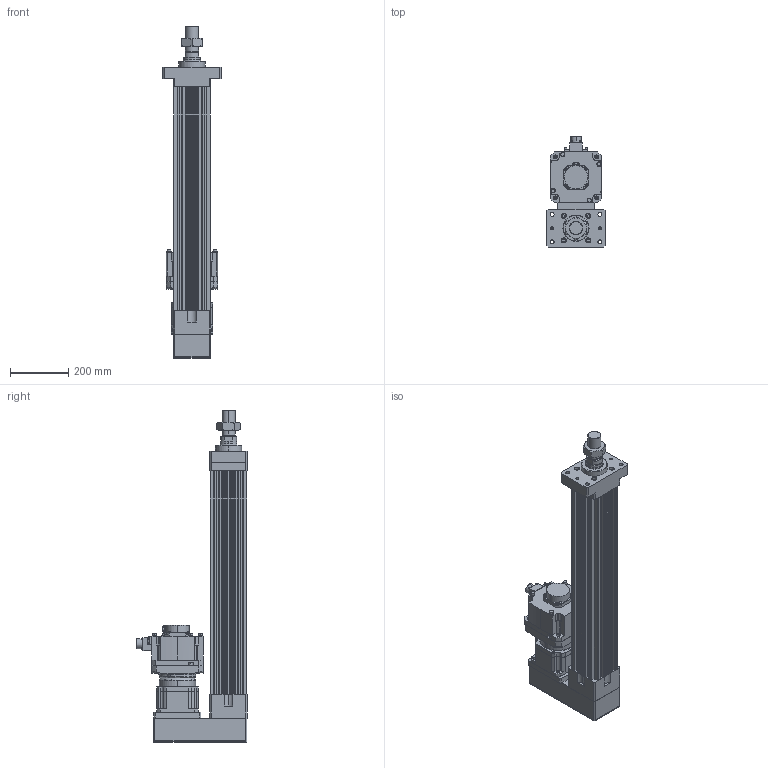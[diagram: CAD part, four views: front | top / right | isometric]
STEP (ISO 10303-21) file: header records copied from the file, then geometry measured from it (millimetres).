
FILE_DESCRIPTION (( 'STEP AP203' ), '1' );
FILE_NAME ('HES130FS(HS)-P550-W020G00-M-FMA.STEP', '2023-01-30T06:39:27', ( 'tms' ), ( '' ), 'SwSTEP 2.0', 'SolidWorks 2013', '' );
FILE_SCHEMA (( 'CONFIG_CONTROL_DESIGN' ));
Length unit declared in the file: millimetre
Products named in the file (9): M45X1.5P; HES130-P550-G142-FMA; HES130 ROD M ST550; P1301500001; AB142-003[HG-SR352]; P0403500801; AB1421; HES130FS(HS)-P550-W020G00-M-FMA; HG-SR202
Assembly tree (8 placements, depth 3):
  HES130FS(HS)-P550-W020G00-M-FMA
    HES130-P550-G142-FMA
    HES130 ROD M ST550
    M45X1.5P
    AB142-003[HG-SR352]
      AB1421
      P1301500001
      P0403500801
    HG-SR202
Bounding box: 200 x 381.85 x 1144 mm (x, y, z)
Volume: 14897250.7 mm3; surface area: 1777959.2 mm2
Topology: 4 solids, 18 shells, 1401 faces, 3660 edges, 2370 vertices
Faces by surface type: cylinder 643, plane 530, cone 146, bspline 76, torus 6
Entity records: 52014 total; most frequent: CARTESIAN_POINT 16222, DIRECTION 7460, ORIENTED_EDGE 7222, EDGE_CURVE 3633, AXIS2_PLACEMENT_3D 2825, VERTEX_POINT 2370, VECTOR 1810, LINE 1810
